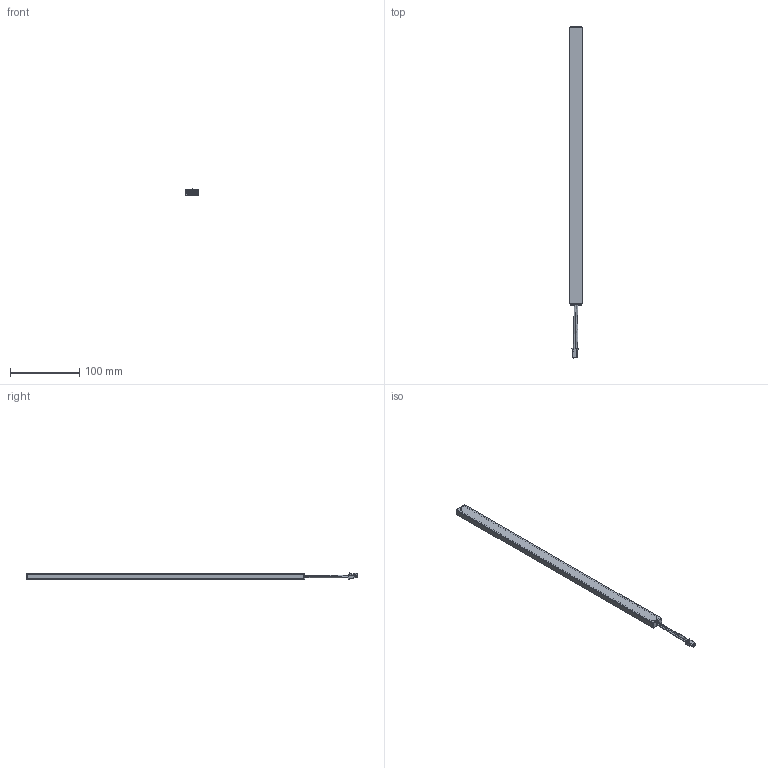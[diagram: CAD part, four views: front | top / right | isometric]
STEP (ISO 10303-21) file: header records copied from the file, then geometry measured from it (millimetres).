
FILE_DESCRIPTION (( 'STEP AP214' ), '1' );
FILE_NAME ('VeneziaCompleto.STEP', '2022-02-18T13:46:14', ( '' ), ( '' ), 'SwSTEP 2.0', 'SolidWorks 2021', '' );
FILE_SCHEMA (( 'AUTOMOTIVE_DESIGN' ));
Length unit declared in the file: millimetre
Products named in the file (1): VeneziaCompleto
Bounding box: 17.44 x 479.55 x 9.07 mm (x, y, z)
Surface area: 49610.3 mm2 (no closed solid volume)
Topology: 0 solids, 8 shells, 1784 faces, 4304 edges, 2533 vertices
Faces by surface type: plane 1738, cylinder 34, bspline 9, sphere 3
Entity records: 76747 total; most frequent: CARTESIAN_POINT 24050, ORIENTED_EDGE 8286, EDGE_CURVE 4300, DIRECTION 4134, B_SPLINE_CURVE_WITH_KNOTS 3786, VERTEX_POINT 2533, AXIS2_PLACEMENT_3D 1844, EDGE_LOOP 1798
